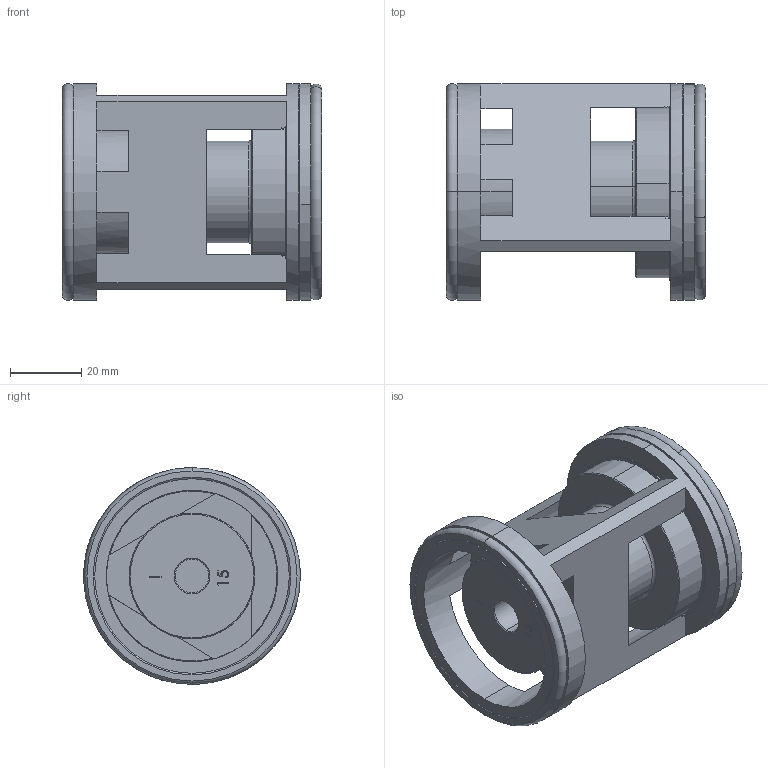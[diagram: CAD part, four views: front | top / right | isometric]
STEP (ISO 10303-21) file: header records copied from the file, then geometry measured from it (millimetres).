
FILE_DESCRIPTION (( 'STEP AP214' ), '1' );
FILE_NAME ('IGS-A-32-015~.STEP', '2023-11-16T01:13:07', ( '' ), ( '' ), 'SwSTEP 2.0', 'SolidWorks 2023', '' );
FILE_SCHEMA (( 'AUTOMOTIVE_DESIGN' ));
Length unit declared in the file: inch
Products named in the file (1): IGS-A-32-015~
Bounding box: 72.59 x 60.73 x 60.73 mm (x, y, z)
Volume: 94338.9 mm3; surface area: 28629.6 mm2
Topology: 1 solids, 3 shells, 157 faces, 422 edges, 273 vertices
Faces by surface type: plane 50, bspline 38, cylinder 37, torus 18, cone 14
Entity records: 13155 total; most frequent: CARTESIAN_POINT 9497, ORIENTED_EDGE 844, DIRECTION 669, EDGE_CURVE 422, VERTEX_POINT 273, AXIS2_PLACEMENT_3D 252, EDGE_LOOP 175, LINE 165
